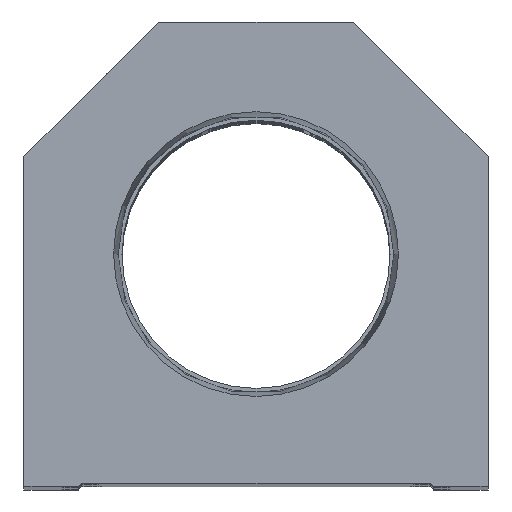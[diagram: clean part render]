
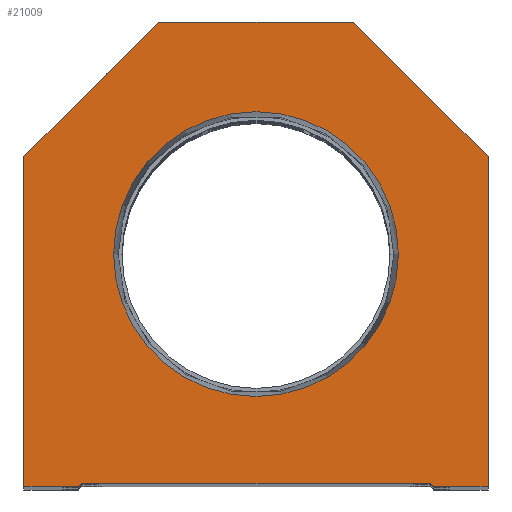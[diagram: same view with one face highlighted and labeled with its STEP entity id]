
A CAD part, top view. The second image highlights one B-rep face of the part: STEP entity #21009.
In plain terms, the highlighted planar face has unit normal (0, 0, 1).
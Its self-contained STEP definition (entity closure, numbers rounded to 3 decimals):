
#240 = CARTESIAN_POINT ( 'NONE',  ( -38.1, 54.1, 0. ) ) ;
#397 = CARTESIAN_POINT ( 'NONE',  ( -38.1, 0., 0. ) ) ;
#495 = CARTESIAN_POINT ( 'NONE',  ( -38.1, 0., 0. ) ) ;
#894 = FACE_OUTER_BOUND ( 'NONE', #23373, .T. ) ;
#1285 = DIRECTION ( 'NONE',  ( 1., 0., 0. ) ) ;
#1308 = VERTEX_POINT ( 'NONE', #11224 ) ;
#1542 = CARTESIAN_POINT ( 'NONE',  ( 28.6, 0.5, 0. ) ) ;
#1577 = DIRECTION ( 'NONE',  ( 0.707, 0.707, 0. ) ) ;
#1682 = VERTEX_POINT ( 'NONE', #495 ) ;
#1933 = DIRECTION ( 'NONE',  ( 1., 0., 0. ) ) ;
#2469 = DIRECTION ( 'NONE',  ( -0.707, -0.707, 0. ) ) ;
#2719 = EDGE_CURVE ( 'NONE', #24093, #25801, #16053, .T. ) ;
#3005 = LINE ( 'NONE', #22746, #15552 ) ;
#3423 = VERTEX_POINT ( 'NONE', #23046 ) ;
#3986 = VERTEX_POINT ( 'NONE', #16872 ) ;
#4776 = VECTOR ( 'NONE', #24452, 1000. ) ;
#4824 = FACE_BOUND ( 'NONE', #19484, .T. ) ;
#5045 = ORIENTED_EDGE ( 'NONE', *, *, #2719, .T. ) ;
#5419 = ORIENTED_EDGE ( 'NONE', *, *, #18700, .T. ) ;
#5685 = VECTOR ( 'NONE', #1285, 1000. ) ;
#5742 = EDGE_CURVE ( 'NONE', #25801, #3423, #10161, .T. ) ;
#5931 = CARTESIAN_POINT ( 'NONE',  ( -29.1, 0., 0. ) ) ;
#6554 = VERTEX_POINT ( 'NONE', #1542 ) ;
#6858 = CARTESIAN_POINT ( 'NONE',  ( -16., 76.2, 0. ) ) ;
#7534 = VERTEX_POINT ( 'NONE', #5931 ) ;
#7895 = ORIENTED_EDGE ( 'NONE', *, *, #19366, .T. ) ;
#7942 = EDGE_CURVE ( 'NONE', #7534, #3986, #15862, .T. ) ;
#8078 = AXIS2_PLACEMENT_3D ( 'NONE', #22863, #8622, #19582 ) ;
#8381 = LINE ( 'NONE', #24193, #4776 ) ;
#8566 = ORIENTED_EDGE ( 'NONE', *, *, #24590, .T. ) ;
#8622 = DIRECTION ( 'NONE',  ( 0., 0., 1. ) ) ;
#8863 = PLANE ( 'NONE',  #8078 ) ;
#9412 = CIRCLE ( 'NONE', #21525, 23.374 ) ;
#9708 = EDGE_CURVE ( 'NONE', #1682, #7534, #8381, .T. ) ;
#10161 = LINE ( 'NONE', #240, #14393 ) ;
#10171 = CARTESIAN_POINT ( 'NONE',  ( 0., 38.1, 0. ) ) ;
#10361 = CARTESIAN_POINT ( 'NONE',  ( 29.1, 0., 0. ) ) ;
#10403 = VERTEX_POINT ( 'NONE', #10361 ) ;
#11010 = CARTESIAN_POINT ( 'NONE',  ( 38.1, 0., 0. ) ) ;
#11141 = CARTESIAN_POINT ( 'NONE',  ( 14.55, 14.55, 0. ) ) ;
#11224 = CARTESIAN_POINT ( 'NONE',  ( -23.374, 38.1, 0. ) ) ;
#12286 = DIRECTION ( 'NONE',  ( 0., 0., 1. ) ) ;
#12516 = EDGE_CURVE ( 'NONE', #1308, #18732, #9412, .T. ) ;
#12531 = EDGE_CURVE ( 'NONE', #18732, #1308, #25671, .T. ) ;
#12603 = DIRECTION ( 'NONE',  ( 1., 0., 0. ) ) ;
#12644 = DIRECTION ( 'NONE',  ( -1., 0., 0. ) ) ;
#13258 = ORIENTED_EDGE ( 'NONE', *, *, #16217, .T. ) ;
#13547 = CARTESIAN_POINT ( 'NONE',  ( 16., 76.2, 0. ) ) ;
#14356 = LINE ( 'NONE', #17461, #16744 ) ;
#14393 = VECTOR ( 'NONE', #2469, 1000. ) ;
#14576 = CARTESIAN_POINT ( 'NONE',  ( -28.6, 0.5, 0. ) ) ;
#14990 = VECTOR ( 'NONE', #12644, 1000. ) ;
#15552 = VECTOR ( 'NONE', #24696, 1000. ) ;
#15862 = LINE ( 'NONE', #17565, #16550 ) ;
#15884 = VECTOR ( 'NONE', #25078, 1000. ) ;
#15956 = DIRECTION ( 'NONE',  ( 1., 0., 0. ) ) ;
#16014 = CARTESIAN_POINT ( 'NONE',  ( 38.1, 54.1, 0. ) ) ;
#16053 = LINE ( 'NONE', #20079, #14990 ) ;
#16217 = EDGE_CURVE ( 'NONE', #21705, #21689, #14356, .T. ) ;
#16384 = DIRECTION ( 'NONE',  ( 0., -1., 0. ) ) ;
#16550 = VECTOR ( 'NONE', #1577, 1000. ) ;
#16744 = VECTOR ( 'NONE', #24994, 1000. ) ;
#16767 = CARTESIAN_POINT ( 'NONE',  ( 23.374, 38.1, 0. ) ) ;
#16872 = CARTESIAN_POINT ( 'NONE',  ( -28.6, 0.5, 0. ) ) ;
#17323 = EDGE_CURVE ( 'NONE', #6554, #10403, #20939, .T. ) ;
#17461 = CARTESIAN_POINT ( 'NONE',  ( 38.1, 0., 0. ) ) ;
#17565 = CARTESIAN_POINT ( 'NONE',  ( -14.55, 14.55, 0. ) ) ;
#17594 = ORIENTED_EDGE ( 'NONE', *, *, #12531, .F. ) ;
#17746 = VECTOR ( 'NONE', #12603, 1000. ) ;
#18179 = DIRECTION ( 'NONE',  ( 0., 0., 1. ) ) ;
#18339 = LINE ( 'NONE', #397, #25067 ) ;
#18620 = ORIENTED_EDGE ( 'NONE', *, *, #9708, .T. ) ;
#18700 = EDGE_CURVE ( 'NONE', #3423, #1682, #18339, .T. ) ;
#18732 = VERTEX_POINT ( 'NONE', #16767 ) ;
#18965 = CARTESIAN_POINT ( 'NONE',  ( 28.6, 0., 0. ) ) ;
#19208 = LINE ( 'NONE', #18965, #5685 ) ;
#19366 = EDGE_CURVE ( 'NONE', #21689, #24093, #3005, .T. ) ;
#19484 = EDGE_LOOP ( 'NONE', ( #17594, #25617 ) ) ;
#19582 = DIRECTION ( 'NONE',  ( 1., 0., 0. ) ) ;
#20079 = CARTESIAN_POINT ( 'NONE',  ( 16., 76.2, 0. ) ) ;
#20939 = LINE ( 'NONE', #11141, #15884 ) ;
#21009 = ADVANCED_FACE ( 'NONE', ( #4824, #894 ), #8863, .T. ) ;
#21525 = AXIS2_PLACEMENT_3D ( 'NONE', #22195, #12286, #1933 ) ;
#21689 = VERTEX_POINT ( 'NONE', #16014 ) ;
#21693 = ORIENTED_EDGE ( 'NONE', *, *, #7942, .T. ) ;
#21705 = VERTEX_POINT ( 'NONE', #11010 ) ;
#21761 = EDGE_CURVE ( 'NONE', #3986, #6554, #22630, .T. ) ;
#22195 = CARTESIAN_POINT ( 'NONE',  ( 0., 38.1, 0. ) ) ;
#22630 = LINE ( 'NONE', #14576, #17746 ) ;
#22746 = CARTESIAN_POINT ( 'NONE',  ( 38.1, 54.1, 0. ) ) ;
#22863 = CARTESIAN_POINT ( 'NONE',  ( 0., 0., 0. ) ) ;
#23046 = CARTESIAN_POINT ( 'NONE',  ( -38.1, 54.1, 0. ) ) ;
#23183 = AXIS2_PLACEMENT_3D ( 'NONE', #10171, #18179, #15956 ) ;
#23251 = ORIENTED_EDGE ( 'NONE', *, *, #17323, .T. ) ;
#23373 = EDGE_LOOP ( 'NONE', ( #18620, #21693, #25195, #23251, #8566, #13258, #7895, #5045, #25000, #5419 ) ) ;
#24093 = VERTEX_POINT ( 'NONE', #13547 ) ;
#24193 = CARTESIAN_POINT ( 'NONE',  ( -28.6, 0., 0. ) ) ;
#24452 = DIRECTION ( 'NONE',  ( 1., 0., 0. ) ) ;
#24590 = EDGE_CURVE ( 'NONE', #10403, #21705, #19208, .T. ) ;
#24696 = DIRECTION ( 'NONE',  ( -0.707, 0.707, 0. ) ) ;
#24994 = DIRECTION ( 'NONE',  ( 0., 1., 0. ) ) ;
#25000 = ORIENTED_EDGE ( 'NONE', *, *, #5742, .T. ) ;
#25067 = VECTOR ( 'NONE', #16384, 1000. ) ;
#25078 = DIRECTION ( 'NONE',  ( 0.707, -0.707, 0. ) ) ;
#25195 = ORIENTED_EDGE ( 'NONE', *, *, #21761, .T. ) ;
#25617 = ORIENTED_EDGE ( 'NONE', *, *, #12516, .F. ) ;
#25671 = CIRCLE ( 'NONE', #23183, 23.374 ) ;
#25801 = VERTEX_POINT ( 'NONE', #6858 ) ;
